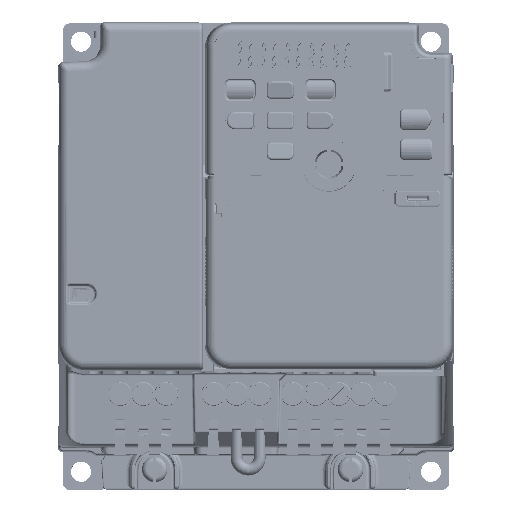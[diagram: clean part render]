
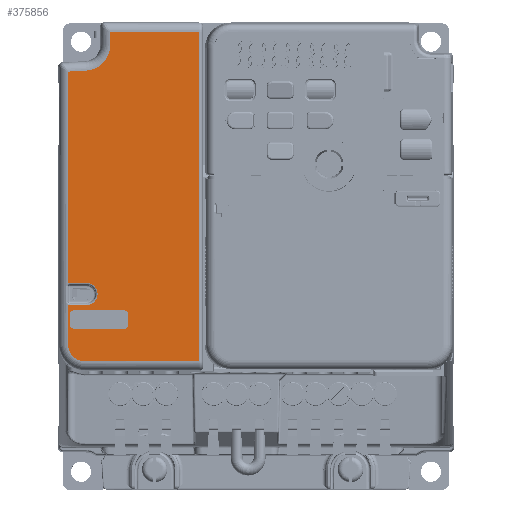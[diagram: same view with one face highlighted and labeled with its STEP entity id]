
A CAD part, top view. The second image highlights one B-rep face of the part: STEP entity #375856.
In plain terms, the highlighted planar face has unit normal (0, 0, 1).
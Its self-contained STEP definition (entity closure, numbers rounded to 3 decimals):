
#281415=DIRECTION('',(0.,-1.,0.));
#281416=VECTOR('',#281415,3.73);
#281417=CARTESIAN_POINT('',(-40.,125.5,87.3));
#281418=LINE('',#281417,#281416);
#281440=DIRECTION('',(-1.,0.,0.));
#281441=VECTOR('',#281440,24.378);
#281442=CARTESIAN_POINT('',(-15.622,125.5,
87.3));
#281443=LINE('',#281442,#281441);
#305317=DIRECTION('',(1.,0.,0.));
#305318=VECTOR('',#305317,31.378);
#305319=CARTESIAN_POINT('',(-47.,35.057,
87.3));
#305320=LINE('',#305319,#305318);
#305342=DIRECTION('',(0.999,0.052,0.));
#305343=VECTOR('',#305342,4.873);
#305344=CARTESIAN_POINT('',(-51.5,114.525,87.3));
#305345=LINE('',#305344,#305343);
#305346=CARTESIAN_POINT('',(-47.,121.77,87.3));
#305347=DIRECTION('',(0.,0.,1.));
#305348=DIRECTION('',(0.052,-0.999,0.));
#305349=AXIS2_PLACEMENT_3D('',#305346,#305347,#305348);
#305351=CARTESIAN_POINT('',(-47.,39.557,
87.3));
#305352=DIRECTION('',(0.,0.,-1.));
#305353=DIRECTION('',(0.,-1.,0.));
#305354=AXIS2_PLACEMENT_3D('',#305351,#305352,#305353);
#305356=CARTESIAN_POINT('',(-51.5,50.566,
87.3));
#305357=CARTESIAN_POINT('',(-51.453,50.542,
87.3));
#305358=CARTESIAN_POINT('',(-51.356,50.502,
87.3));
#305359=CARTESIAN_POINT('',(-51.201,50.465,
87.3));
#305360=CARTESIAN_POINT('',(-51.097,50.456,
87.3));
#305361=CARTESIAN_POINT('',(-51.044,50.456,
87.3));
#305363=CARTESIAN_POINT('',(-46.5,53.5,87.3));
#305364=DIRECTION('',(0.,0.,1.));
#305365=DIRECTION('',(0.,-1.,0.));
#305366=AXIS2_PLACEMENT_3D('',#305363,#305364,#305365);
#305368=CARTESIAN_POINT('',(-46.5,53.5,87.3));
#305369=DIRECTION('',(0.,0.,1.));
#305370=DIRECTION('',(0.058,0.998,0.));
#305371=AXIS2_PLACEMENT_3D('',#305368,#305369,#305370);
#305373=CARTESIAN_POINT('',(-51.044,56.544,
87.3));
#305374=CARTESIAN_POINT('',(-51.097,56.544,
87.3));
#305375=CARTESIAN_POINT('',(-51.202,56.535,
87.3));
#305376=CARTESIAN_POINT('',(-51.356,56.498,
87.3));
#305377=CARTESIAN_POINT('',(-51.453,56.458,87.3));
#305378=CARTESIAN_POINT('',(-51.5,56.434,87.3));
#305380=CARTESIAN_POINT('',(-50.,45.,87.3));
#305381=DIRECTION('',(0.,0.,1.));
#305382=DIRECTION('',(-1.,0.,0.));
#305383=AXIS2_PLACEMENT_3D('',#305380,#305381,#305382);
#305385=CARTESIAN_POINT('',(-36.,45.,87.3));
#305386=DIRECTION('',(0.,0.,1.));
#305387=DIRECTION('',(0.,-1.,0.));
#305388=AXIS2_PLACEMENT_3D('',#305385,#305386,#305387);
#305390=CARTESIAN_POINT('',(-36.,48.,87.3));
#305391=DIRECTION('',(0.,0.,1.));
#305392=DIRECTION('',(1.,0.,0.));
#305393=AXIS2_PLACEMENT_3D('',#305390,#305391,#305392);
#305395=CARTESIAN_POINT('',(-50.,48.,87.3));
#305396=DIRECTION('',(0.,0.,1.));
#305397=DIRECTION('',(0.,1.,0.));
#305398=AXIS2_PLACEMENT_3D('',#305395,#305396,#305397);
#305412=DIRECTION('',(0.,-1.,
0.));
#305413=VECTOR('',#305412,11.009);
#305414=CARTESIAN_POINT('',(-51.5,50.566,
87.3));
#305415=LINE('',#305414,#305413);
#305428=DIRECTION('',(0.,-1.,0.));
#305429=VECTOR('',#305428,58.091);
#305430=CARTESIAN_POINT('',(-51.5,114.525,87.3));
#305431=LINE('',#305430,#305429);
#305481=DIRECTION('',(1.,0.,0.));
#305482=VECTOR('',#305481,4.544);
#305483=CARTESIAN_POINT('',(-51.044,56.544,
87.3));
#305484=LINE('',#305483,#305482);
#305525=DIRECTION('',(-1.,0.,0.));
#305526=VECTOR('',#305525,4.544);
#305527=CARTESIAN_POINT('',(-46.5,50.456,87.3));
#305528=LINE('',#305527,#305526);
#305954=DIRECTION('',(0.,1.,0.));
#305955=VECTOR('',#305954,90.443);
#305956=CARTESIAN_POINT('',(-15.622,35.057,
87.3));
#305957=LINE('',#305956,#305955);
#305958=DIRECTION('',(0.,1.,0.));
#305959=VECTOR('',#305958,3.);
#305960=CARTESIAN_POINT('',(-51.,45.,87.3));
#305961=LINE('',#305960,#305959);
#306314=DIRECTION('',(1.,0.,0.));
#306315=VECTOR('',#306314,14.);
#306316=CARTESIAN_POINT('',(-50.,49.,87.3));
#306317=LINE('',#306316,#306315);
#306326=DIRECTION('',(0.,-1.,0.));
#306327=VECTOR('',#306326,3.);
#306328=CARTESIAN_POINT('',(-35.,48.,87.3));
#306329=LINE('',#306328,#306327);
#306338=DIRECTION('',(-1.,0.,0.));
#306339=VECTOR('',#306338,14.);
#306340=CARTESIAN_POINT('',(-36.,44.,87.3));
#306341=LINE('',#306340,#306339);
#322715=CARTESIAN_POINT('',(-47.,35.057,
87.3));
#322716=CARTESIAN_POINT('',(-51.5,39.558,
87.3));
#322717=VERTEX_POINT('',#322715);
#322718=VERTEX_POINT('',#322716);
#322719=CARTESIAN_POINT('',(-51.5,114.525,87.3));
#322720=CARTESIAN_POINT('',(-51.5,56.434,87.3));
#322721=VERTEX_POINT('',#322719);
#322722=VERTEX_POINT('',#322720);
#322723=CARTESIAN_POINT('',(-46.634,114.78,87.3));
#322724=VERTEX_POINT('',#322723);
#322725=CARTESIAN_POINT('',(-40.,121.77,87.3));
#322726=VERTEX_POINT('',#322725);
#322727=CARTESIAN_POINT('',(-40.,125.5,87.3));
#322728=VERTEX_POINT('',#322727);
#322729=CARTESIAN_POINT('',(-15.622,125.5,
87.3));
#322730=VERTEX_POINT('',#322729);
#322731=CARTESIAN_POINT('',(-15.622,35.057,
87.3));
#322732=VERTEX_POINT('',#322731);
#322733=CARTESIAN_POINT('',(-51.5,50.566,
87.3));
#322734=VERTEX_POINT('',#322733);
#322735=VERTEX_POINT('',#305361);
#322736=CARTESIAN_POINT('',(-46.5,50.456,87.3));
#322737=VERTEX_POINT('',#322736);
#322738=CARTESIAN_POINT('',(-46.322,56.539,87.3));
#322739=VERTEX_POINT('',#322738);
#322740=CARTESIAN_POINT('',(-46.5,56.544,87.3));
#322741=VERTEX_POINT('',#322740);
#322742=CARTESIAN_POINT('',(-51.044,56.544,
87.3));
#322743=VERTEX_POINT('',#322742);
#322744=CARTESIAN_POINT('',(-51.,45.,87.3));
#322745=CARTESIAN_POINT('',(-51.,48.,87.3));
#322746=VERTEX_POINT('',#322744);
#322747=VERTEX_POINT('',#322745);
#322748=CARTESIAN_POINT('',(-50.,44.,87.3));
#322749=VERTEX_POINT('',#322748);
#322750=CARTESIAN_POINT('',(-36.,44.,87.3));
#322751=VERTEX_POINT('',#322750);
#322752=CARTESIAN_POINT('',(-35.,45.,87.3));
#322753=VERTEX_POINT('',#322752);
#322754=CARTESIAN_POINT('',(-35.,48.,87.3));
#322755=VERTEX_POINT('',#322754);
#322756=CARTESIAN_POINT('',(-36.,49.,87.3));
#322757=VERTEX_POINT('',#322756);
#322758=CARTESIAN_POINT('',(-50.,49.,87.3));
#322759=VERTEX_POINT('',#322758);
#375805=CARTESIAN_POINT('',(0.,0.,87.3));
#375806=DIRECTION('',(0.,0.,1.));
#375807=DIRECTION('',(1.,0.,0.));
#375808=AXIS2_PLACEMENT_3D('',#375805,#375806,#375807);
#375809=PLANE('',#375808);
#375811=ORIENTED_EDGE('',*,*,#375810,.F.);
#375813=ORIENTED_EDGE('',*,*,#375812,.T.);
#375815=ORIENTED_EDGE('',*,*,#375814,.T.);
#375816=ORIENTED_EDGE('',*,*,#341996,.F.);
#375817=ORIENTED_EDGE('',*,*,#342073,.F.);
#375819=ORIENTED_EDGE('',*,*,#375818,.F.);
#375820=ORIENTED_EDGE('',*,*,#375785,.F.);
#375821=ORIENTED_EDGE('',*,*,#375795,.T.);
#375823=ORIENTED_EDGE('',*,*,#375822,.F.);
#375825=ORIENTED_EDGE('',*,*,#375824,.T.);
#375827=ORIENTED_EDGE('',*,*,#375826,.F.);
#375829=ORIENTED_EDGE('',*,*,#375828,.T.);
#375831=ORIENTED_EDGE('',*,*,#375830,.T.);
#375833=ORIENTED_EDGE('',*,*,#375832,.F.);
#375835=ORIENTED_EDGE('',*,*,#375834,.T.);
#375836=EDGE_LOOP('',(#375811,#375813,#375815,#375816,#375817,#375819,#375820,
#375821,#375823,#375825,#375827,#375829,#375831,#375833,#375835));
#375837=FACE_OUTER_BOUND('',#375836,.F.);
#375839=ORIENTED_EDGE('',*,*,#375838,.F.);
#375841=ORIENTED_EDGE('',*,*,#375840,.T.);
#375843=ORIENTED_EDGE('',*,*,#375842,.F.);
#375845=ORIENTED_EDGE('',*,*,#375844,.T.);
#375847=ORIENTED_EDGE('',*,*,#375846,.F.);
#375849=ORIENTED_EDGE('',*,*,#375848,.T.);
#375851=ORIENTED_EDGE('',*,*,#375850,.F.);
#375853=ORIENTED_EDGE('',*,*,#375852,.T.);
#375854=EDGE_LOOP('',(#375839,#375841,#375843,#375845,#375847,#375849,#375851,
#375853));
#375855=FACE_BOUND('',#375854,.F.);
#375856=ADVANCED_FACE('',(#375837,#375855),#375809,.T.);
#305350=CIRCLE('',#305349,7.);
#305355=CIRCLE('',#305354,4.5);
#305362=B_SPLINE_CURVE_WITH_KNOTS('',3,(#305356,#305357,#305358,#305359,#305360,
#305361),.UNSPECIFIED.,.F.,.F.,(4,1,1,4),(0.,0.333,
0.667,1.),.UNSPECIFIED.);
#305367=CIRCLE('',#305366,3.044);
#305372=CIRCLE('',#305371,3.044);
#305379=B_SPLINE_CURVE_WITH_KNOTS('',3,(#305373,#305374,#305375,#305376,#305377,
#305378),.UNSPECIFIED.,.F.,.F.,(4,1,1,4),(0.,0.333,
0.667,1.),.UNSPECIFIED.);
#305384=CIRCLE('',#305383,1.);
#305389=CIRCLE('',#305388,1.);
#305394=CIRCLE('',#305393,1.);
#305399=CIRCLE('',#305398,1.);
#341996=EDGE_CURVE('',#322728,#322726,#281418,.T.);
#342073=EDGE_CURVE('',#322730,#322728,#281443,.T.);
#375785=EDGE_CURVE('',#322717,#322732,#305320,.T.);
#375795=EDGE_CURVE('',#322717,#322718,#305355,.T.);
#375810=EDGE_CURVE('',#322721,#322722,#305431,.T.);
#375812=EDGE_CURVE('',#322721,#322724,#305345,.T.);
#375814=EDGE_CURVE('',#322724,#322726,#305350,.T.);
#375818=EDGE_CURVE('',#322732,#322730,#305957,.T.);
#375822=EDGE_CURVE('',#322734,#322718,#305415,.T.);
#375824=EDGE_CURVE('',#322734,#322735,#305362,.T.);
#375826=EDGE_CURVE('',#322737,#322735,#305528,.T.);
#375828=EDGE_CURVE('',#322737,#322739,#305367,.T.);
#375830=EDGE_CURVE('',#322739,#322741,#305372,.T.);
#375832=EDGE_CURVE('',#322743,#322741,#305484,.T.);
#375834=EDGE_CURVE('',#322743,#322722,#305379,.T.);
#375838=EDGE_CURVE('',#322746,#322747,#305961,.T.);
#375840=EDGE_CURVE('',#322746,#322749,#305384,.T.);
#375842=EDGE_CURVE('',#322751,#322749,#306341,.T.);
#375844=EDGE_CURVE('',#322751,#322753,#305389,.T.);
#375846=EDGE_CURVE('',#322755,#322753,#306329,.T.);
#375848=EDGE_CURVE('',#322755,#322757,#305394,.T.);
#375850=EDGE_CURVE('',#322759,#322757,#306317,.T.);
#375852=EDGE_CURVE('',#322759,#322747,#305399,.T.);
